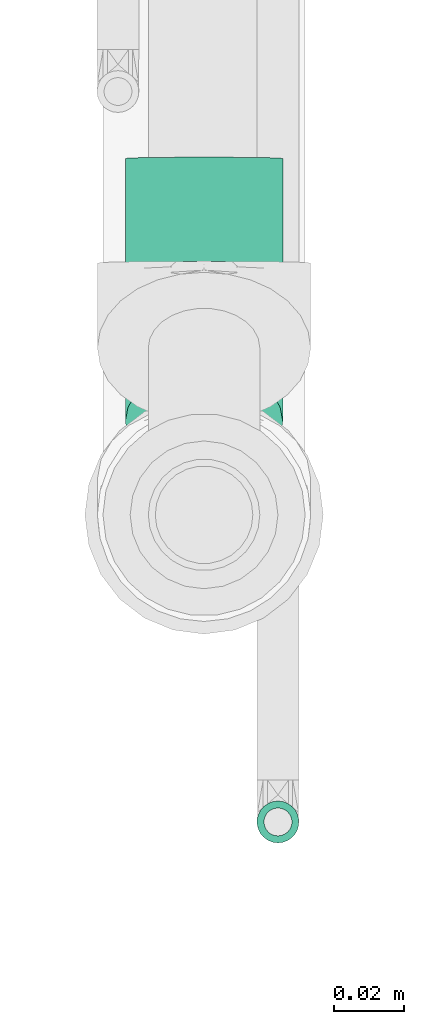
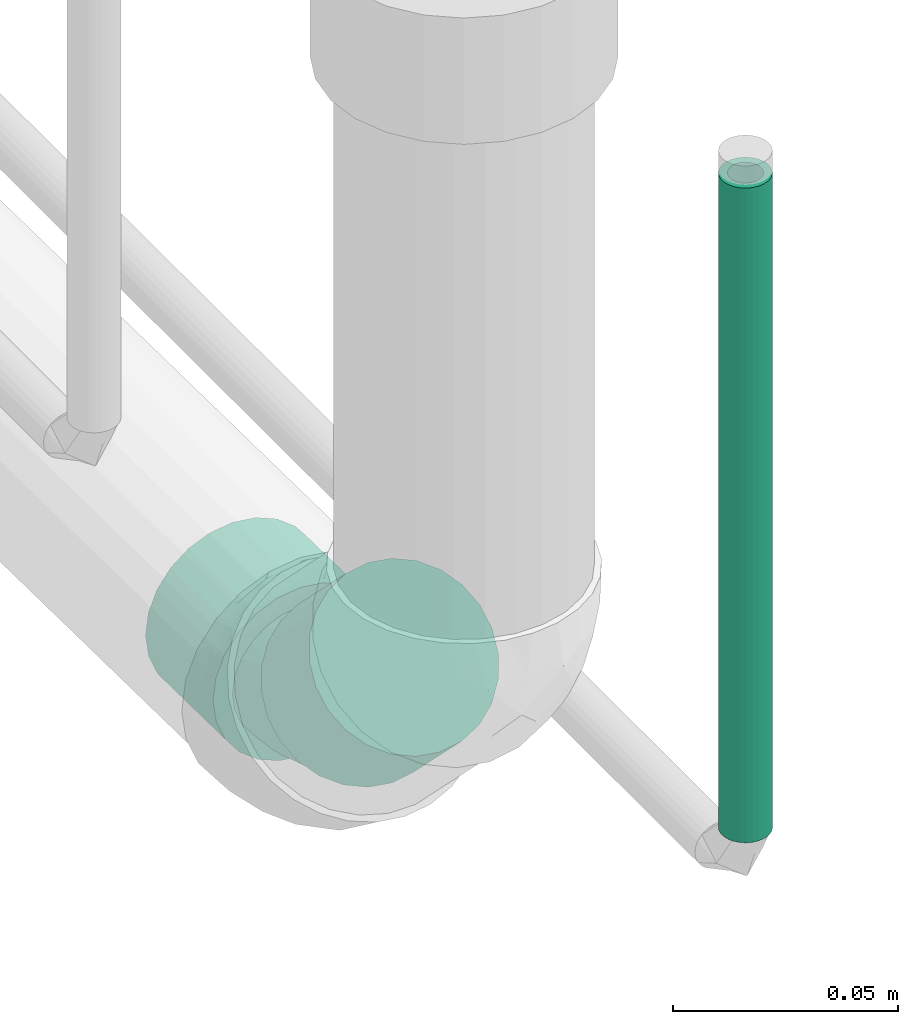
# One storey, part 46 of 108: 1 flow fitting, 1 flow segment.
"""IFC2X3 building model written with IfcOpenShell, lengths in millimetres."""

from ifc_helpers import new_model, entity, si_unit, converted_unit, derived_unit, direction, frame, origin_with_axes, origin_2d_with_axis, place, context, subcontext, project, spatial, hollow_circle, extrude, open_shell, surface_model, source, transform, mapped, type_object, element, save


model = new_model("IFC2X3")

# Units and contexts
model_context = context("Model", 3, precision=0.01, world=frame((0.0, 4.29681676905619e-09, 0.0)), true_north=direction((4.01073788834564e-13, 1.0)))
plan_context = context("Plan", 3, precision=0.01, world=frame((0.0, 4.29681676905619e-09, 0.0)), true_north=direction((4.01073788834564e-13, 1.0)))
body_context = subcontext(model_context, "Body", "Model", "MODEL_VIEW")
ifc_project = project(units=[converted_unit("PLANEANGLEUNIT", "DEGREE", entity("IfcPositiveLengthMeasure", 0.0174532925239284), si_unit("PLANEANGLEUNIT", "RADIAN"), dimensions=[0, 0, 0, 0, 0, 0, 0]), si_unit("AREAUNIT", "SQUARE_METRE"), si_unit("LENGTHUNIT", "METRE", prefix="MILLI"), si_unit("MASSUNIT", "GRAM", prefix="KILO"), si_unit("POWERUNIT", "WATT"), si_unit("PRESSUREUNIT", "PASCAL", prefix="KILO"), si_unit("FORCEUNIT", "NEWTON", prefix="KILO"), si_unit("ELECTRICVOLTAGEUNIT", "VOLT"), si_unit("ELECTRICCURRENTUNIT", "AMPERE"), si_unit("THERMODYNAMICTEMPERATUREUNIT", "DEGREE_CELSIUS"), si_unit("TIMEUNIT", "SECOND"), si_unit("VOLUMEUNIT", "CUBIC_METRE"), derived_unit("LINEARVELOCITYUNIT", [(si_unit("LENGTHUNIT", "METRE"), 1), (si_unit("TIMEUNIT", "SECOND"), -1)]), derived_unit("VOLUMETRICFLOWRATEUNIT", [(si_unit("VOLUMEUNIT", "CUBIC_METRE"), 1), (si_unit("TIMEUNIT", "SECOND"), -1)]), derived_unit("THERMALTRANSMITTANCEUNIT", [(si_unit("POWERUNIT", "WATT"), 1), (si_unit("THERMODYNAMICTEMPERATUREUNIT", "KELVIN"), -1), (si_unit("AREAUNIT", "SQUARE_METRE"), -1)]), derived_unit("SOUNDPRESSUREUNIT", [(si_unit("PRESSUREUNIT", "PASCAL"), 1)])], contexts=[model_context, plan_context])

# Site, building, storey
site_placement = place(None, frame((0.0, -4.29681676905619e-09, 0.0), z_axis=(0.0, 0.0, 1.0), x_axis=(1.0, 0.0, 0.0)))
site = spatial("IfcSite", under=ifc_project, at=site_placement, CompositionType="ELEMENT")
building_placement = place(site_placement, frame((0.0, 4.29681676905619e-09, 0.0), z_axis=(0.0, 0.0, 1.0), x_axis=(1.0, 0.0, 0.0)))
building = spatial("IfcBuilding", under=site, at=building_placement, Name="mc-building", CompositionType="ELEMENT")
storey_placement = place(building_placement, frame((0.0, 0.0, 210200.0), z_axis=(0.0, 0.0, 1.0), x_axis=(1.0, 0.0, 0.0)))
storey = spatial("IfcBuildingStorey", under=building, at=storey_placement, Name="Nivå F - 0,7 m", CompositionType="ELEMENT", Elevation=210200.0)

# Flow fitting
pipe_fitting_type = type_object("IfcPipeFittingType", Name="magi_sewer_bend_001", PredefinedType="BEND")
shared_shape_1 = source(origin_with_axes(), body_context, "Body", "SurfaceModel", [
    surface_model("IfcShellBasedSurfaceModel", [(-44.23786, -11.3, -19.57217), (-44.23786, 5.84931, -21.82992), (-44.23786, -5.84931, -21.82992), (-44.23786, -15.98061, -15.98061), (-44.23786, 22.6, 0.0), (-44.23786, -21.82992, -5.84931), (-44.23786, -19.57217, -11.3), (-44.23786, 21.82992, -5.84931), (-44.23786, 0.0, -22.6), (-44.23786, 11.3, -19.57217), (-44.23786, 15.98061, -15.98061), (-44.23786, 19.57217, -11.3), (-44.23786, -21.82992, 5.84931), (-44.23786, -22.6, 0.0), (-44.23786, -19.57217, 11.3), (-44.23786, -15.98061, 15.98061), (-44.23786, 0.0, 22.6), (-44.23786, -11.3, 19.57217), (-44.23786, -5.84931, 21.82992), (-44.23786, 15.98061, 15.98061), (-44.23786, 19.57217, 11.3), (-44.23786, 21.82992, 5.84931), (-44.23786, 5.84931, 21.82992), (-44.23786, 11.3, 19.57217), (-14.23786, 0.0, 22.6), (-14.23786, -5.84931, 21.82992), (-14.23786, -11.3, 19.57217), (-14.23786, -15.98061, 15.98061), (-14.23786, -19.57217, 11.3), (-14.23786, -21.82992, 5.84931), (-14.23786, 22.6, 0.0), (-14.23786, 21.82992, -5.84931), (-14.23786, 5.84931, 21.82992), (-14.23786, 15.98061, 15.98061), (-14.23786, 11.3, 19.57217), (-14.23786, 19.57217, 11.3), (-14.23786, 21.82992, 5.84931), (-14.23786, -11.3, -19.57217), (-14.23786, -22.6, 0.0), (-14.23786, -21.82992, -5.84931), (-14.23786, -15.98061, -15.98061), (-14.23786, -19.57217, -11.3), (-14.23786, -5.84931, -21.82992), (-14.23786, 15.98061, -15.98061), (-14.23786, 19.57217, -11.3), (-14.23786, 11.3, -19.57217), (-14.23786, 5.84931, -21.82992), (-14.23786, 0.0, -22.6), (16.62111, 46.44645, 5.84931), (18.19076, 44.82359, 11.3), (20.6877, 42.24201, 15.98061), (20.6877, 42.24201, -15.98061), (27.73124, 34.95971, 21.82992), (31.79783, 30.75527, 22.6), (23.94178, 38.87762, 19.57217), (16.08574, 46.99997, 0.0), (18.19076, 44.82359, -11.3), (16.62111, 46.44645, -5.84931), (27.73124, 34.95971, -21.82992), (23.94178, 38.87762, -19.57217), (35.86441, 26.55083, 21.82992), (39.65387, 22.63292, 19.57217), (42.90795, 19.26853, 15.98061), (42.90795, 19.26853, -15.98061), (45.40489, 16.68695, 11.3), (46.97454, 15.0641, 5.84931), (47.50991, 14.51057, 0.0), (35.86441, 26.55083, -21.82992), (39.65387, 22.63292, -19.57217), (31.79783, 30.75527, -22.6), (46.97454, 15.0641, -5.84931), (45.40489, 16.68695, -11.3), (25.94615, -6.34618, 0.0), (25.41077, -5.79266, 5.84931), (23.84113, -4.1698, 11.3), (14.30065, 5.69408, 21.82992), (18.09011, 1.77617, 19.57217), (21.34419, -1.58822, 15.98061), (21.34419, -1.58822, -15.98061), (25.41077, -5.79266, -5.84931), (23.84113, -4.1698, -11.3), (18.09011, 1.77617, -19.57217), (10.23406, 9.89852, -22.6), (14.30065, 5.69408, -21.82992), (-0.87606, 21.38526, -15.98061), (-3.373, 23.96684, -11.3), (6.16747, 14.10296, 21.82992), (-0.87606, 21.38526, 15.98061), (2.37802, 18.02087, 19.57217), (-3.373, 23.96684, 11.3), (-4.94265, 25.58969, 5.84931), (6.16747, 14.10296, -21.82992), (2.37802, 18.02087, -19.57217), (-5.47803, 26.14322, 0.0), (-4.94265, 25.58969, -5.84931), (10.23406, 9.89852, 22.6), (-14.23786, 0.0, -17.6), (-14.23786, -12.44508, -12.44508), (-14.23786, 4.55522, -17.00029), (-14.23786, 8.8, -15.24205), (-14.23786, 15.24205, -8.8), (-14.23786, 12.44508, -12.44508), (-14.23786, -17.00029, 4.55522), (-14.23786, -8.8, -15.24205), (-14.23786, -4.55522, -17.00029), (-14.23786, -15.24205, -8.8), (-14.23786, -17.00029, -4.55522), (-14.23786, -17.6, 0.0), (-14.23786, 17.00029, -4.55522), (-14.23786, -8.8, 15.24205), (-14.23786, 17.00029, 4.55522), (-14.23786, 17.6, 0.0), (-14.23786, 12.44508, 12.44508), (-14.23786, 15.24205, 8.8), (-14.23786, 4.55522, 17.00029), (-14.23786, 8.8, 15.24205), (-14.23786, -15.24205, 8.8), (-14.23786, -12.44508, 12.44508), (-14.23786, -4.55522, 17.00029), (-14.23786, 0.0, 17.6), (7.06716, 13.17277, -17.00029), (13.40096, 6.62427, -17.00029), (10.23406, 9.89852, -17.6), (-0.36259, 20.85438, -8.8), (4.11608, 16.22389, -15.24205), (1.58193, 18.84394, -12.44508), (-1.58497, 22.1182, -4.55522), (18.88619, 0.95309, -12.44508), (16.35204, 3.57315, -15.24205), (22.05309, -2.32116, 4.55522), (20.83072, -1.05734, -8.8), (22.05309, -2.32116, -4.55522), (22.47002, -2.75222, 0.0), (16.35204, 3.57315, 15.24205), (-1.58497, 22.1182, 4.55522), (-0.36259, 20.85438, 8.8), (1.58193, 18.84394, 12.44508), (4.11608, 16.22389, 15.24205), (7.06716, 13.17277, 17.00029), (18.88619, 0.95309, 12.44508), (20.83072, -1.05734, 8.8), (10.23406, 9.89852, 17.6), (13.40096, 6.62427, 17.00029), (-2.0019, 22.54926, 0.0), (-6.82773, -6.47022, 16.09377), (-3.68728, -9.96292, 13.59382), (1.80556, -4.46384, 15.88137), (-5.37111, -13.45892, 10.31538), (13.21769, -5.94004, 10.31538), (-5.00718, -1.70123, 17.36964), (-6.47451, 7.32255, 16.44842), (-1.60461, 3.96704, 17.53521), (-8.6354, 2.42874, 17.49127), (3.11032, 8.15055, 17.33099), (-2.97703, -15.25513, 6.13399), (4.43112, -10.95497, 9.84682), (9.40597, 0.09607, 16.09377), (-7.05915, 17.4522, 7.21016), (-7.43338, 14.76297, 11.09799), (-4.85871, 12.01211, 14.35213), (1.78197, -14.80412, 3.19487), (8.83787, -11.96522, 3.19487), (5.12572, -12.67223, 6.28359), (-4.3386, -15.67375, 0.0), (-4.69362, -16.43007, 3.20985), (14.60348, -8.67814, 3.19143), (12.74561, -8.89557, 6.13399), (-6.95086, 18.75136, 3.68688), (4.78186, 2.25828, 17.36964), (9.57685, -4.59778, 13.59382), (5.56066, -13.74751, 0.0), (0.64229, 10.47249, 16.41821), (14.01534, -8.24986, 0.0), (-7.63836, 18.88416, 0.0), (2.90431, -7.18027, 14.11298), (-5.00718, -1.70123, -17.36964), (9.01133, -11.87996, -3.19487), (1.96593, -14.74482, -3.19487), (5.12572, -12.67223, -6.28358), (4.78186, 2.25828, -17.36964), (-7.90214, 3.69618, -17.33099), (-4.92053, 15.77938, -11.09799), (9.57685, -4.59778, -13.59382), (-7.05915, 17.4522, -7.21016), (12.74561, -8.89557, -6.13399), (-8.0402, 18.31074, -3.68688), (-0.43699, 9.76463, -16.44842), (-4.4636, -16.39048, -3.19143), (-2.97703, -15.25513, -6.13399), (-7.74241, 7.081, -16.41821), (-5.37111, -13.45892, -10.31538), (4.43112, -10.95497, -9.84682), (-3.68728, -9.96292, -13.59382), (2.90431, -7.18027, -14.11298), (-6.82773, -6.47022, -16.09377), (1.80556, -4.46384, -15.88137), (9.40597, 0.09607, -16.09377), (-1.60461, 3.96704, -17.53521), (-4.85871, 12.0121, -14.35213), (14.79633, -8.54668, -3.20985), (4.51854, 7.74931, -17.49127), (13.21769, -5.94004, -10.31538)], [open_shell([[[0, 1, 2]], [[3, 4, 0]], [[4, 3, 5]], [[5, 3, 6]], [[4, 7, 0]], [[2, 1, 8]], [[0, 9, 1]], [[10, 7, 11]], [[7, 10, 9]], [[0, 7, 9]], [[12, 5, 13]], [[12, 14, 15]], [[12, 15, 16]], [[17, 18, 16]], [[17, 16, 15]], [[12, 16, 19]], [[4, 20, 21]], [[20, 4, 19]], [[19, 22, 23]], [[19, 4, 12]], [[16, 22, 19]], [[12, 4, 5]], [[24, 25, 26]], [[24, 26, 27]], [[27, 28, 29]], [[27, 29, 24]], [[30, 24, 31]], [[32, 33, 34]], [[33, 32, 30]], [[35, 30, 36]], [[30, 35, 33]], [[32, 24, 30]], [[24, 29, 31]], [[37, 38, 39]], [[40, 39, 41]], [[37, 31, 29]], [[37, 39, 40]], [[31, 37, 42]], [[31, 43, 44]], [[43, 31, 45]], [[42, 46, 45]], [[45, 31, 42]], [[47, 46, 42]], [[37, 29, 38]], [[31, 7, 30]], [[44, 11, 31]], [[9, 43, 45]], [[43, 10, 44]], [[31, 11, 7]], [[7, 4, 30]], [[8, 1, 46]], [[1, 9, 45]], [[10, 43, 9]], [[10, 11, 44]], [[46, 1, 45]], [[46, 47, 8]], [[2, 42, 37]], [[40, 0, 37]], [[6, 41, 39]], [[40, 41, 3]], [[5, 39, 38]], [[42, 2, 8]], [[37, 0, 2]], [[40, 3, 0]], [[41, 6, 3]], [[5, 6, 39]], [[38, 13, 5]], [[42, 8, 47]], [[29, 12, 38]], [[28, 14, 29]], [[17, 27, 26]], [[28, 27, 15]], [[18, 26, 25]], [[29, 14, 12]], [[12, 13, 38]], [[18, 24, 16]], [[18, 17, 26]], [[15, 27, 17]], [[15, 14, 28]], [[24, 18, 25]], [[22, 32, 34]], [[33, 23, 34]], [[20, 35, 36]], [[33, 35, 19]], [[21, 36, 30]], [[34, 23, 22]], [[22, 16, 32]], [[19, 23, 33]], [[35, 20, 19]], [[21, 20, 36]], [[30, 4, 21]], [[32, 16, 24]], [[48, 49, 50]], [[51, 48, 50]], [[52, 53, 50]], [[52, 50, 54]], [[51, 50, 53]], [[55, 56, 57]], [[55, 48, 56]], [[51, 58, 59]], [[56, 48, 51]], [[53, 58, 51]], [[53, 60, 58]], [[60, 61, 62]], [[63, 60, 62]], [[64, 65, 66]], [[64, 66, 62]], [[63, 62, 66]], [[67, 63, 68]], [[63, 67, 69]], [[63, 70, 71]], [[69, 58, 63]], [[66, 70, 63]], [[63, 58, 60]], [[72, 73, 74]], [[72, 74, 75]], [[76, 75, 74]], [[76, 74, 77]], [[72, 75, 78]], [[79, 78, 80]], [[79, 72, 78]], [[81, 82, 83]], [[82, 81, 78]], [[78, 84, 82]], [[78, 75, 85]], [[86, 87, 75]], [[87, 86, 88]], [[85, 87, 89]], [[75, 87, 85]], [[90, 85, 89]], [[91, 84, 92]], [[82, 84, 91]], [[85, 93, 94]], [[78, 85, 84]], [[90, 93, 85]], [[86, 75, 95]], [[91, 58, 82]], [[92, 59, 91]], [[56, 84, 85]], [[84, 51, 92]], [[91, 59, 58]], [[58, 69, 82]], [[55, 57, 94]], [[57, 56, 85]], [[51, 84, 56]], [[51, 59, 92]], [[94, 57, 85]], [[94, 93, 55]], [[48, 90, 89]], [[87, 49, 89]], [[54, 88, 86]], [[87, 88, 50]], [[52, 86, 95]], [[90, 48, 55]], [[89, 49, 48]], [[87, 50, 49]], [[88, 54, 50]], [[52, 54, 86]], [[95, 53, 52]], [[90, 55, 93]], [[75, 60, 95]], [[76, 61, 75]], [[64, 77, 74]], [[76, 77, 62]], [[65, 74, 73]], [[75, 61, 60]], [[60, 53, 95]], [[65, 72, 66]], [[65, 64, 74]], [[62, 77, 64]], [[62, 61, 76]], [[72, 65, 73]], [[70, 79, 80]], [[78, 71, 80]], [[68, 81, 83]], [[78, 81, 63]], [[67, 83, 82]], [[80, 71, 70]], [[70, 66, 79]], [[63, 71, 78]], [[81, 68, 63]], [[67, 68, 83]], [[82, 69, 67]], [[79, 66, 72]], [[96, 97, 98]], [[99, 98, 100]], [[100, 98, 97]], [[101, 99, 100]], [[102, 100, 97]], [[103, 97, 96]], [[96, 104, 103]], [[105, 102, 97]], [[102, 105, 106]], [[107, 102, 106]], [[108, 100, 109]], [[110, 111, 112]], [[113, 110, 112]], [[114, 115, 112]], [[111, 114, 112]], [[109, 114, 111]], [[116, 117, 102]], [[109, 102, 117]], [[118, 119, 109]], [[109, 100, 102]], [[109, 119, 114]], [[111, 108, 109]], [[120, 121, 122]], [[123, 120, 124]], [[120, 123, 121]], [[123, 124, 125]], [[126, 121, 123]], [[121, 127, 128]], [[121, 126, 127]], [[127, 129, 130]], [[129, 131, 130]], [[131, 129, 132]], [[126, 133, 127]], [[126, 134, 135]], [[126, 135, 136]], [[136, 137, 138]], [[126, 136, 138]], [[138, 133, 126]], [[129, 139, 140]], [[139, 129, 133]], [[133, 141, 142]], [[129, 127, 133]], [[138, 141, 133]], [[134, 126, 143]], [[144, 145, 146]], [[116, 147, 117]], [[109, 117, 145]], [[140, 139, 148]], [[119, 118, 149]], [[118, 109, 144]], [[115, 114, 150]], [[151, 152, 149]], [[119, 152, 114]], [[138, 153, 141]], [[154, 155, 147]], [[133, 142, 156]], [[157, 113, 158]], [[159, 112, 115]], [[160, 161, 162]], [[163, 160, 164]], [[165, 166, 161]], [[157, 167, 110]], [[116, 102, 154]], [[111, 110, 167]], [[110, 113, 157]], [[147, 145, 117]], [[150, 159, 115]], [[154, 162, 155]], [[107, 163, 164]], [[137, 136, 159]], [[141, 153, 168]], [[139, 133, 169]], [[135, 134, 157]], [[168, 142, 141]], [[160, 163, 170]], [[166, 140, 148]], [[171, 153, 138]], [[169, 133, 156]], [[154, 147, 116]], [[172, 165, 161]], [[129, 165, 132]], [[152, 150, 114]], [[167, 157, 134]], [[173, 167, 143]], [[148, 169, 155]], [[145, 174, 146]], [[146, 168, 149]], [[138, 137, 171]], [[146, 156, 168]], [[157, 158, 135]], [[151, 149, 168]], [[136, 135, 158]], [[159, 150, 171]], [[144, 149, 118]], [[113, 112, 158]], [[129, 140, 166]], [[145, 147, 155]], [[174, 155, 169]], [[169, 148, 139]], [[166, 148, 155]], [[112, 159, 158]], [[136, 158, 159]], [[159, 171, 137]], [[151, 171, 150]], [[145, 144, 109]], [[149, 144, 146]], [[168, 156, 142]], [[169, 156, 146]], [[171, 151, 153]], [[153, 151, 168]], [[149, 152, 119]], [[150, 152, 151]], [[160, 162, 154]], [[166, 155, 162]], [[160, 154, 164]], [[161, 160, 170]], [[172, 161, 170]], [[166, 162, 161]], [[154, 102, 164]], [[107, 164, 102]], [[132, 165, 172]], [[129, 166, 165]], [[155, 174, 145]], [[169, 146, 174]], [[143, 167, 134]], [[167, 173, 111]], [[104, 96, 175]], [[176, 177, 178]], [[122, 121, 179]], [[180, 96, 98]], [[100, 181, 101]], [[128, 127, 182]], [[183, 181, 100]], [[130, 131, 184]], [[108, 185, 183]], [[124, 120, 186]], [[187, 188, 177]], [[99, 189, 98]], [[163, 187, 177]], [[188, 190, 191]], [[106, 187, 107]], [[190, 188, 105]], [[97, 103, 192]], [[193, 191, 192]], [[106, 105, 188]], [[97, 190, 105]], [[194, 103, 104]], [[190, 192, 191]], [[195, 175, 179]], [[196, 179, 121]], [[111, 173, 185]], [[176, 172, 170]], [[143, 126, 185]], [[197, 179, 175]], [[125, 124, 198]], [[183, 100, 108]], [[123, 181, 183]], [[194, 192, 103]], [[186, 198, 124]], [[180, 175, 96]], [[198, 186, 189]], [[101, 198, 99]], [[172, 176, 199]], [[122, 200, 120]], [[196, 121, 128]], [[184, 178, 191]], [[201, 182, 127]], [[182, 195, 196]], [[184, 191, 201]], [[195, 194, 175]], [[132, 172, 199]], [[123, 125, 181]], [[200, 186, 120]], [[201, 127, 130]], [[182, 193, 195]], [[200, 179, 197]], [[189, 180, 98]], [[126, 183, 185]], [[192, 190, 97]], [[126, 123, 183]], [[184, 201, 130]], [[182, 201, 191]], [[125, 198, 181]], [[101, 181, 198]], [[198, 189, 99]], [[197, 189, 186]], [[175, 194, 104]], [[192, 194, 195]], [[182, 196, 128]], [[179, 196, 195]], [[189, 197, 180]], [[180, 197, 175]], [[179, 200, 122]], [[186, 200, 197]], [[176, 178, 184]], [[188, 191, 178]], [[176, 184, 199]], [[177, 176, 170]], [[163, 177, 170]], [[188, 178, 177]], [[184, 131, 199]], [[132, 199, 131]], [[107, 187, 163]], [[106, 188, 187]], [[191, 193, 182]], [[192, 195, 193]], [[111, 185, 108]], [[185, 173, 143]]])]),
])
flow_fitting_placement = place(storey_placement, frame((331121.18062, 460715.60515, 250.07527999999), z_axis=(-1.0, 0.0, 0.0), x_axis=(0.0, -0.999861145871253, 0.0166640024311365)))
element("IfcFlowFitting", 1, at=flow_fitting_placement, inside=storey, type_object=pipe_fitting_type, Name="magi_sewer_bend_001", context=body_context, shape_type="MappedRepresentation", body=[
    mapped(shared_shape_1, transform((0.0, 0.0, 0.0), scale=1.0)),
])

# Flow segment
pipe_segment_type = type_object("IfcPipeSegmentType", Name="Kobberrør", PredefinedType="RIGIDSEGMENT")
shared_shape_2 = source(origin_with_axes(), body_context, "Body", "SweptSolid", [
    extrude(hollow_circle(Radius=6.0, WallThickness=2.0, at=origin_2d_with_axis()), frame((0.0, 0.0, 0.0), z_axis=(1.0, 0.0, 0.0), x_axis=(0.0, 1.0, 0.0)), (0.0, 0.0, 1.0), 177.3),
])
flow_segment_placement = place(storey_placement, frame((331142.38085, 460569.49094, 297.525679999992), z_axis=(1.0, 0.0, 0.0), x_axis=(0.0, 0.0, 1.0)))
element("IfcFlowSegment", 2, at=flow_segment_placement, inside=storey, type_object=pipe_segment_type, Name="Kobberrør", context=body_context, shape_type="MappedRepresentation", body=[
    mapped(shared_shape_2, transform((0.0, 0.0, 0.0), scale=1.0)),
])

save(model, "model.ifc")
